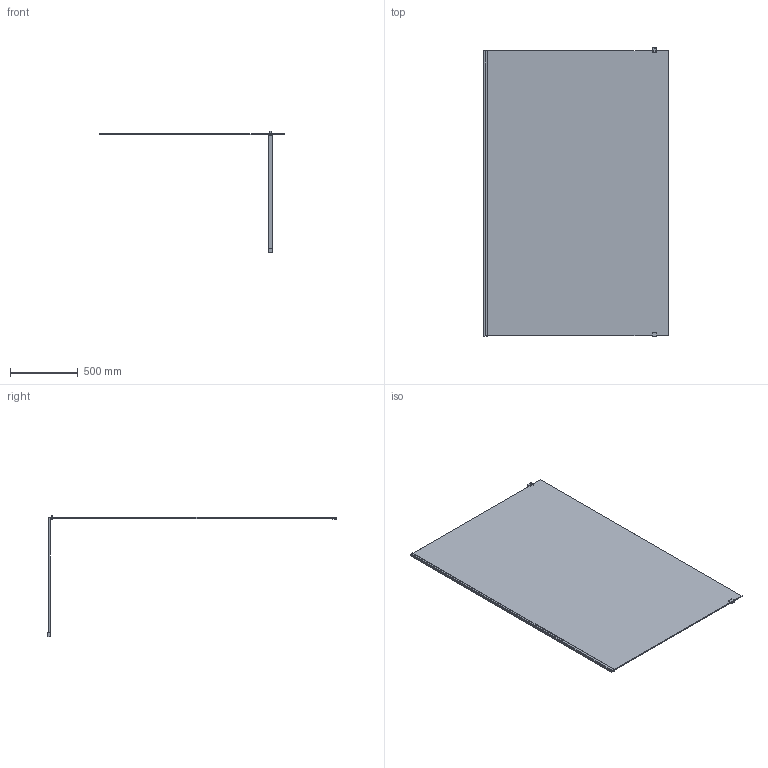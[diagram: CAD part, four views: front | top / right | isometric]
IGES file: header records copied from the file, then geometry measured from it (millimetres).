
Start section: SolidWorks IGES file using analytic representation for surfaces
Global section: file name: D:\Users\M.Szymanski\Desktop\Kabiny\PIII_ALTIIa\03. do przegrania\PIII_ALTIIa_140_K3D.IGS; native system: SolidWorks 2011; preprocessor: SolidWorks 2011; author: M.Szymanski; date: 181005.105200; units: millimetre
Bounding box: 1358.45 x 2128 x 894.4 mm (x, y, z)
Surface area: 6011424.1 mm2 (no closed solid volume)
Topology: 0 solids, 0 shells, 52 faces, 372 edges, 496 vertices
Faces by surface type: bspline 52
